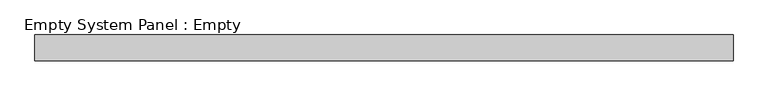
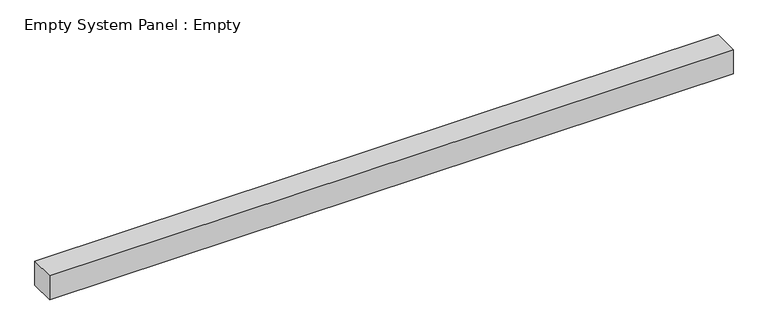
"""IFC4 building model written with IfcOpenShell, lengths in millimetres: plate geometry, Empty System Panel : Empty."""

from ifc_helpers import new_model, si_unit, origin, origin_with_axes, place, context, project, spatial, polyline, outline, extrude, source, transform, mapped, element, save


def empty_system_panel_empty_247011cd(model_context):
    return source(origin(), model_context, "Body", "SweptSolid", [
        extrude(outline(polyline([(1341.25, -50.0), (-1341.25, -50.0), (-1341.25, 50.0), (1341.25, 50.0), (1341.25, -50.0)])), origin_with_axes(), (0.0, 0.0, 1.0), 100.0),
    ])


if __name__ == "__main__":
    model = new_model("IFC4")
    model_context = context("Model", 3, world=origin())
    ifc_project = project(units=[si_unit("LENGTHUNIT", "METRE", prefix="MILLI")], contexts=[model_context])
    site = spatial("IfcSite", under=ifc_project)
    building = spatial("IfcBuilding", under=site)
    placement = place(None, origin())
    empty_system_panel_empty_shape = empty_system_panel_empty_247011cd(model_context)
    element("IfcPlate", 1, ObjectType="Empty System Panel : Empty", at=placement, inside=building, context=model_context, shape_type="MappedRepresentation", body=[
        mapped(empty_system_panel_empty_shape, transform((0.0, 0.0, 0.0), x_axis=(1.0, 0.0, 0.0), y_axis=(0.0, 1.0, 0.0), z_axis=(0.0, 0.0, 1.0))),
    ])
    save(model, "model.ifc")
